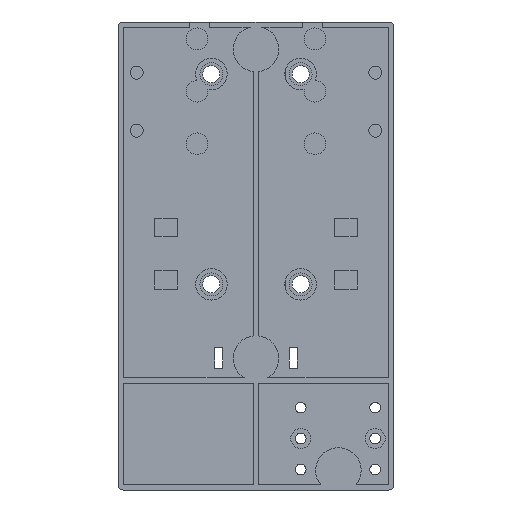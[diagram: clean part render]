
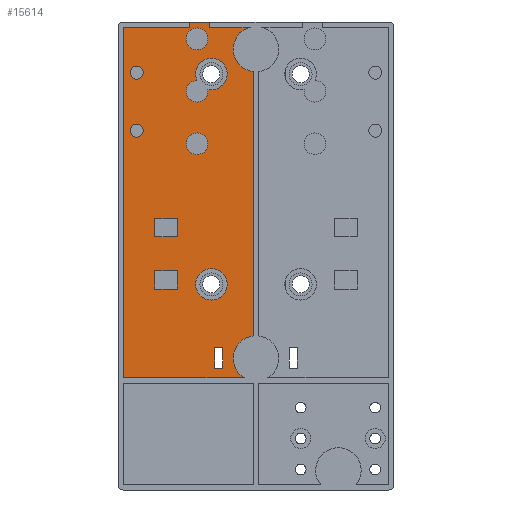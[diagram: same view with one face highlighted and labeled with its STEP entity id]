
A CAD part, front view. The second image highlights one B-rep face of the part: STEP entity #15614.
In plain terms, the highlighted planar face has unit normal (0, -1, 0).
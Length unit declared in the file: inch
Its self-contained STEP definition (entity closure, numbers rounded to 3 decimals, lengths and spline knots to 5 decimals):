
#418=FACE_BOUND('',#2047,.T.);
#419=FACE_BOUND('',#2048,.T.);
#420=FACE_BOUND('',#2049,.T.);
#421=FACE_BOUND('',#2050,.T.);
#422=FACE_BOUND('',#2051,.T.);
#423=FACE_BOUND('',#2052,.T.);
#424=FACE_BOUND('',#2053,.T.);
#425=FACE_BOUND('',#2054,.T.);
#426=FACE_BOUND('',#2055,.T.);
#577=CIRCLE('',#16701,0.1925);
#578=CIRCLE('',#16703,0.1925);
#580=CIRCLE('',#16706,0.132);
#582=CIRCLE('',#16709,0.277);
#583=CIRCLE('',#16710,0.277);
#584=CIRCLE('',#16711,0.132);
#585=CIRCLE('',#16712,0.132);
#586=CIRCLE('',#16713,0.08);
#587=CIRCLE('',#16714,0.08);
#1177=FACE_OUTER_BOUND('',#2046,.T.);
#2046=EDGE_LOOP('',(#10485,#10486,#10487,#10488,#10489,#10490,#10491,#10492,
#10493,#10494));
#2047=EDGE_LOOP('',(#10495,#10496,#10497,#10498));
#2048=EDGE_LOOP('',(#10499,#10500,#10501,#10502));
#2049=EDGE_LOOP('',(#10503,#10504,#10505,#10506));
#2050=EDGE_LOOP('',(#10507));
#2051=EDGE_LOOP('',(#10508));
#2052=EDGE_LOOP('',(#10509,#10510));
#2053=EDGE_LOOP('',(#10511));
#2054=EDGE_LOOP('',(#10512));
#2055=EDGE_LOOP('',(#10513));
#3054=LINE('',#22436,#4812);
#3057=LINE('',#22442,#4815);
#3060=LINE('',#22448,#4818);
#3063=LINE('',#22452,#4821);
#3078=LINE('',#22484,#4836);
#3081=LINE('',#22490,#4839);
#3084=LINE('',#22496,#4842);
#3087=LINE('',#22500,#4845);
#3090=LINE('',#22508,#4848);
#3094=LINE('',#22515,#4852);
#3097=LINE('',#22521,#4855);
#3099=LINE('',#22524,#4857);
#3109=LINE('',#22584,#4867);
#3110=LINE('',#22586,#4868);
#3111=LINE('',#22588,#4869);
#3112=LINE('',#22590,#4870);
#3113=LINE('',#22592,#4871);
#3114=LINE('',#22594,#4872);
#3115=LINE('',#22596,#4873);
#3116=LINE('',#22599,#4874);
#4812=VECTOR('',#18025,0.3937);
#4815=VECTOR('',#18030,0.3937);
#4818=VECTOR('',#18035,0.3937);
#4821=VECTOR('',#18040,0.3937);
#4836=VECTOR('',#18065,0.3937);
#4839=VECTOR('',#18070,0.3937);
#4842=VECTOR('',#18075,0.3937);
#4845=VECTOR('',#18080,0.3937);
#4848=VECTOR('',#18085,0.3937);
#4852=VECTOR('',#18091,0.3937);
#4855=VECTOR('',#18096,0.3937);
#4857=VECTOR('',#18100,0.3937);
#4867=VECTOR('',#18168,0.3937);
#4868=VECTOR('',#18169,0.3937);
#4869=VECTOR('',#18170,0.3937);
#4870=VECTOR('',#18171,0.3937);
#4871=VECTOR('',#18172,0.3937);
#4872=VECTOR('',#18173,0.3937);
#4873=VECTOR('',#18174,0.3937);
#4874=VECTOR('',#18177,0.3937);
#6562=VERTEX_POINT('',#22433);
#6563=VERTEX_POINT('',#22435);
#6565=VERTEX_POINT('',#22441);
#6567=VERTEX_POINT('',#22447);
#6578=VERTEX_POINT('',#22481);
#6579=VERTEX_POINT('',#22483);
#6581=VERTEX_POINT('',#22489);
#6583=VERTEX_POINT('',#22495);
#6586=VERTEX_POINT('',#22505);
#6587=VERTEX_POINT('',#22507);
#6589=VERTEX_POINT('',#22513);
#6591=VERTEX_POINT('',#22519);
#6605=VERTEX_POINT('',#22563);
#6607=VERTEX_POINT('',#22567);
#6608=VERTEX_POINT('',#22571);
#6610=VERTEX_POINT('',#22580);
#6611=VERTEX_POINT('',#22581);
#6612=VERTEX_POINT('',#22583);
#6613=VERTEX_POINT('',#22585);
#6614=VERTEX_POINT('',#22587);
#6615=VERTEX_POINT('',#22589);
#6616=VERTEX_POINT('',#22591);
#6617=VERTEX_POINT('',#22593);
#6618=VERTEX_POINT('',#22595);
#6619=VERTEX_POINT('',#22597);
#6620=VERTEX_POINT('',#22600);
#6621=VERTEX_POINT('',#22602);
#6622=VERTEX_POINT('',#22604);
#6623=VERTEX_POINT('',#22606);
#8078=EDGE_CURVE('',#6563,#6562,#3054,.T.);
#8081=EDGE_CURVE('',#6565,#6563,#3057,.T.);
#8084=EDGE_CURVE('',#6567,#6565,#3060,.T.);
#8087=EDGE_CURVE('',#6562,#6567,#3063,.T.);
#8102=EDGE_CURVE('',#6579,#6578,#3078,.T.);
#8105=EDGE_CURVE('',#6581,#6579,#3081,.T.);
#8108=EDGE_CURVE('',#6583,#6581,#3084,.T.);
#8111=EDGE_CURVE('',#6578,#6583,#3087,.T.);
#8114=EDGE_CURVE('',#6587,#6586,#3090,.T.);
#8118=EDGE_CURVE('',#6586,#6589,#3094,.T.);
#8121=EDGE_CURVE('',#6589,#6591,#3097,.T.);
#8123=EDGE_CURVE('',#6591,#6587,#3099,.T.);
#8145=EDGE_CURVE('',#6605,#6607,#577,.T.);
#8146=EDGE_CURVE('',#6608,#6608,#578,.T.);
#8149=EDGE_CURVE('',#6607,#6605,#580,.T.);
#8151=EDGE_CURVE('',#6610,#6611,#582,.T.);
#8152=EDGE_CURVE('',#6612,#6611,#3109,.F.);
#8153=EDGE_CURVE('',#6613,#6612,#3110,.T.);
#8154=EDGE_CURVE('',#6614,#6613,#3111,.T.);
#8155=EDGE_CURVE('',#6614,#6615,#3112,.T.);
#8156=EDGE_CURVE('',#6616,#6615,#3113,.F.);
#8157=EDGE_CURVE('',#6617,#6616,#3114,.F.);
#8158=EDGE_CURVE('',#6617,#6618,#3115,.T.);
#8159=EDGE_CURVE('',#6618,#6619,#583,.T.);
#8160=EDGE_CURVE('',#6619,#6610,#3116,.T.);
#8161=EDGE_CURVE('',#6620,#6620,#584,.T.);
#8162=EDGE_CURVE('',#6621,#6621,#585,.T.);
#8163=EDGE_CURVE('',#6622,#6622,#586,.T.);
#8164=EDGE_CURVE('',#6623,#6623,#587,.T.);
#10485=ORIENTED_EDGE('',*,*,#8151,.T.);
#10486=ORIENTED_EDGE('',*,*,#8152,.F.);
#10487=ORIENTED_EDGE('',*,*,#8153,.F.);
#10488=ORIENTED_EDGE('',*,*,#8154,.F.);
#10489=ORIENTED_EDGE('',*,*,#8155,.T.);
#10490=ORIENTED_EDGE('',*,*,#8156,.F.);
#10491=ORIENTED_EDGE('',*,*,#8157,.F.);
#10492=ORIENTED_EDGE('',*,*,#8158,.T.);
#10493=ORIENTED_EDGE('',*,*,#8159,.T.);
#10494=ORIENTED_EDGE('',*,*,#8160,.T.);
#10495=ORIENTED_EDGE('',*,*,#8078,.T.);
#10496=ORIENTED_EDGE('',*,*,#8087,.T.);
#10497=ORIENTED_EDGE('',*,*,#8084,.T.);
#10498=ORIENTED_EDGE('',*,*,#8081,.T.);
#10499=ORIENTED_EDGE('',*,*,#8102,.T.);
#10500=ORIENTED_EDGE('',*,*,#8111,.T.);
#10501=ORIENTED_EDGE('',*,*,#8108,.T.);
#10502=ORIENTED_EDGE('',*,*,#8105,.T.);
#10503=ORIENTED_EDGE('',*,*,#8114,.T.);
#10504=ORIENTED_EDGE('',*,*,#8118,.T.);
#10505=ORIENTED_EDGE('',*,*,#8121,.T.);
#10506=ORIENTED_EDGE('',*,*,#8123,.T.);
#10507=ORIENTED_EDGE('',*,*,#8161,.T.);
#10508=ORIENTED_EDGE('',*,*,#8162,.T.);
#10509=ORIENTED_EDGE('',*,*,#8145,.T.);
#10510=ORIENTED_EDGE('',*,*,#8149,.T.);
#10511=ORIENTED_EDGE('',*,*,#8163,.T.);
#10512=ORIENTED_EDGE('',*,*,#8164,.T.);
#10513=ORIENTED_EDGE('',*,*,#8146,.T.);
#14979=PLANE('',#16708);
#15614=ADVANCED_FACE('',(#1177,#418,#419,#420,#421,#422,#423,#424,#425,
#426),#14979,.F.);
#16701=AXIS2_PLACEMENT_3D('',#22569,#18149,#18150);
#16703=AXIS2_PLACEMENT_3D('',#22572,#18153,#18154);
#16706=AXIS2_PLACEMENT_3D('',#22577,#18160,#18161);
#16708=AXIS2_PLACEMENT_3D('',#22579,#18164,#18165);
#16709=AXIS2_PLACEMENT_3D('',#22582,#18166,#18167);
#16710=AXIS2_PLACEMENT_3D('',#22598,#18175,#18176);
#16711=AXIS2_PLACEMENT_3D('',#22601,#18178,#18179);
#16712=AXIS2_PLACEMENT_3D('',#22603,#18180,#18181);
#16713=AXIS2_PLACEMENT_3D('',#22605,#18182,#18183);
#16714=AXIS2_PLACEMENT_3D('',#22607,#18184,#18185);
#18025=DIRECTION('',(0.,0.,-1.));
#18030=DIRECTION('',(1.,0.,0.));
#18035=DIRECTION('',(0.,0.,1.));
#18040=DIRECTION('',(-1.,0.,0.));
#18065=DIRECTION('',(0.,0.,1.));
#18070=DIRECTION('',(-1.,0.,0.));
#18075=DIRECTION('',(0.,0.,-1.));
#18080=DIRECTION('',(1.,0.,0.));
#18085=DIRECTION('',(1.,0.,0.));
#18091=DIRECTION('',(0.,0.,-1.));
#18096=DIRECTION('',(-1.,0.,0.));
#18100=DIRECTION('',(0.,0.,1.));
#18149=DIRECTION('center_axis',(0.,1.,0.));
#18150=DIRECTION('ref_axis',(1.,0.,0.));
#18153=DIRECTION('center_axis',(0.,1.,0.));
#18154=DIRECTION('ref_axis',(1.,0.,0.));
#18160=DIRECTION('center_axis',(0.,1.,0.));
#18161=DIRECTION('ref_axis',(-1.,0.,0.));
#18164=DIRECTION('center_axis',(0.,1.,0.));
#18165=DIRECTION('ref_axis',(0.,0.,1.));
#18166=DIRECTION('center_axis',(0.,1.,0.));
#18167=DIRECTION('ref_axis',(-1.,0.,0.));
#18168=DIRECTION('',(-1.,0.,0.));
#18169=DIRECTION('',(0.,0.,-1.));
#18170=DIRECTION('',(1.,0.,0.));
#18171=DIRECTION('',(0.,0.,-1.));
#18172=DIRECTION('',(-1.,0.,0.));
#18173=DIRECTION('',(0.,0.,-1.));
#18174=DIRECTION('',(1.,0.,0.));
#18175=DIRECTION('center_axis',(0.,1.,0.));
#18176=DIRECTION('ref_axis',(-1.,0.,0.));
#18177=DIRECTION('',(0.,0.,1.));
#18178=DIRECTION('center_axis',(0.,1.,0.));
#18179=DIRECTION('ref_axis',(-1.,0.,0.));
#18180=DIRECTION('center_axis',(0.,1.,0.));
#18181=DIRECTION('ref_axis',(-1.,0.,0.));
#18182=DIRECTION('center_axis',(0.,1.,0.));
#18183=DIRECTION('ref_axis',(1.,0.,0.));
#18184=DIRECTION('center_axis',(0.,1.,0.));
#18185=DIRECTION('ref_axis',(1.,0.,0.));
#22433=CARTESIAN_POINT('',(-0.9575,0.1225,0.2345));
#22435=CARTESIAN_POINT('',(-0.9575,0.1225,0.4565));
#22436=CARTESIAN_POINT('',(-0.9575,0.1225,0.22825));
#22441=CARTESIAN_POINT('',(-1.2325,0.1225,0.4565));
#22442=CARTESIAN_POINT('',(-0.61625,0.1225,0.4565));
#22447=CARTESIAN_POINT('',(-1.2325,0.1225,0.2345));
#22448=CARTESIAN_POINT('',(-1.2325,0.1225,0.11725));
#22452=CARTESIAN_POINT('',(-0.47875,0.1225,0.2345));
#22481=CARTESIAN_POINT('',(-0.504,0.1225,-1.1165));
#22483=CARTESIAN_POINT('',(-0.504,0.1225,-1.3665));
#22484=CARTESIAN_POINT('',(-0.504,0.1225,-0.68325));
#22489=CARTESIAN_POINT('',(-0.404,0.1225,-1.3665));
#22490=CARTESIAN_POINT('',(-0.202,0.1225,-1.3665));
#22495=CARTESIAN_POINT('',(-0.404,0.1225,-1.1165));
#22496=CARTESIAN_POINT('',(-0.404,0.1225,-0.55825));
#22500=CARTESIAN_POINT('',(-0.252,0.1225,-1.1165));
#22505=CARTESIAN_POINT('',(-0.9575,0.1225,-0.1805));
#22507=CARTESIAN_POINT('',(-1.2325,0.1225,-0.1805));
#22508=CARTESIAN_POINT('',(-0.61625,0.1225,-0.1805));
#22513=CARTESIAN_POINT('',(-0.9575,0.1225,-0.4025));
#22515=CARTESIAN_POINT('',(-0.9575,0.1225,-0.09025));
#22519=CARTESIAN_POINT('',(-1.2325,0.1225,-0.4025));
#22521=CARTESIAN_POINT('',(-0.47875,0.1225,-0.4025));
#22524=CARTESIAN_POINT('',(-1.2325,0.1225,-0.20125));
#22563=CARTESIAN_POINT('',(-0.71971,0.1225,2.13799));
#22567=CARTESIAN_POINT('',(-0.58788,0.1225,2.02819));
#22569=CARTESIAN_POINT('Origin',(-0.5435,0.1225,2.2155));
#22571=CARTESIAN_POINT('',(-0.736,0.1225,-0.3445));
#22572=CARTESIAN_POINT('Origin',(-0.5435,0.1225,-0.3445));
#22577=CARTESIAN_POINT('Origin',(-0.718,0.1225,2.006));
#22579=CARTESIAN_POINT('Origin',(0.,0.1225,0.));
#22580=CARTESIAN_POINT('',(-0.03125,0.1225,2.24477));
#22581=CARTESIAN_POINT('',(-0.07192,0.1225,2.7875));
#22582=CARTESIAN_POINT('Origin',(0.,0.1225,2.52));
#22583=CARTESIAN_POINT('',(-0.565,0.1225,2.7875));
#22584=CARTESIAN_POINT('',(-0.839,0.1225,2.7875));
#22585=CARTESIAN_POINT('',(-0.565,0.1225,2.85));
#22586=CARTESIAN_POINT('',(-0.565,0.1225,2.85));
#22587=CARTESIAN_POINT('',(-0.81,0.1225,2.85));
#22588=CARTESIAN_POINT('',(-1.244,0.1225,2.85));
#22589=CARTESIAN_POINT('',(-0.81,0.1225,2.7875));
#22590=CARTESIAN_POINT('',(-0.81,0.1225,2.85));
#22591=CARTESIAN_POINT('',(-1.6155,0.1225,2.7875));
#22592=CARTESIAN_POINT('',(-0.839,0.1225,2.7875));
#22593=CARTESIAN_POINT('',(-1.6155,0.1225,-1.485));
#22594=CARTESIAN_POINT('',(-1.6155,0.1225,-1.425));
#22595=CARTESIAN_POINT('',(-0.14256,0.1225,-1.485));
#22596=CARTESIAN_POINT('',(-0.01562,0.1225,-1.485));
#22597=CARTESIAN_POINT('',(-0.03125,0.1225,-0.97227));
#22598=CARTESIAN_POINT('Origin',(0.,0.1225,-1.2475));
#22599=CARTESIAN_POINT('',(-0.03125,0.1225,1.39375));
#22600=CARTESIAN_POINT('',(-0.586,0.1225,1.367));
#22601=CARTESIAN_POINT('Origin',(-0.718,0.1225,1.367));
#22602=CARTESIAN_POINT('',(-0.586,0.1225,2.645));
#22603=CARTESIAN_POINT('Origin',(-0.718,0.1225,2.645));
#22604=CARTESIAN_POINT('',(-1.533,0.1225,2.234));
#22605=CARTESIAN_POINT('Origin',(-1.453,0.1225,2.234));
#22606=CARTESIAN_POINT('',(-1.533,0.1225,1.527));
#22607=CARTESIAN_POINT('Origin',(-1.453,0.1225,1.527));
